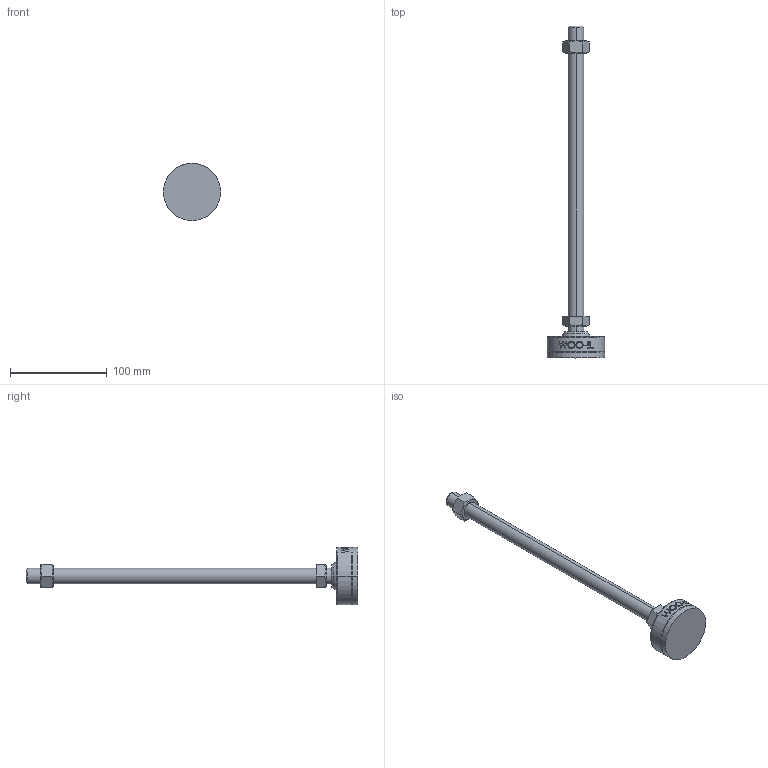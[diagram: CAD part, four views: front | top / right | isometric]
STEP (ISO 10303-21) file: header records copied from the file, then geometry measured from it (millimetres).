
FILE_DESCRIPTION (( 'STEP AP214' ), '1' );
FILE_NAME ('MFNR59-M16-300.step', '2021-02-22T09:07:16', ( '' ), ( '' ), 'SwSTEP 2.0', 'SolidWorks 2019', '' );
FILE_SCHEMA (( 'AUTOMOTIVE_DESIGN' ));
Length unit declared in the file: millimetre
Products named in the file (2): MFNR59-M16-300
Bounding box: 59 x 343 x 59 mm (x, y, z)
Volume: 133624.6 mm3; surface area: 28916.8 mm2
Topology: 2 solids, 2 shells, 105 faces, 245 edges, 156 vertices
Faces by surface type: plane 47, cone 18, cylinder 18, bspline 16, torus 4, sphere 2
Entity records: 4515 total; most frequent: CARTESIAN_POINT 2178, ORIENTED_EDGE 490, DIRECTION 437, EDGE_CURVE 245, AXIS2_PLACEMENT_3D 167, VERTEX_POINT 156, EDGE_LOOP 119, ADVANCED_FACE 105
